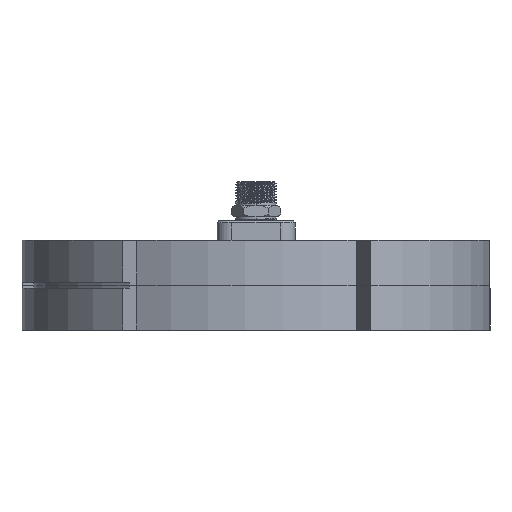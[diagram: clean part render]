
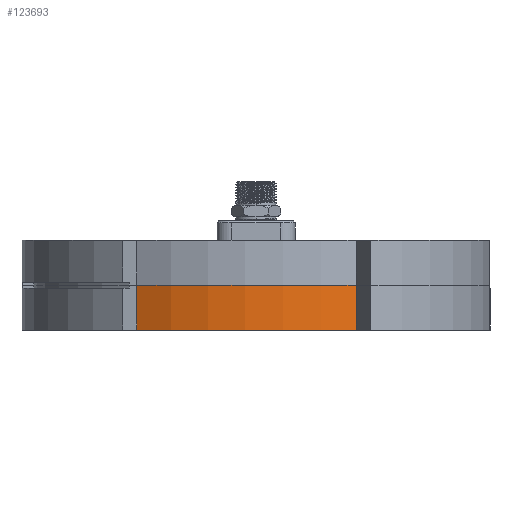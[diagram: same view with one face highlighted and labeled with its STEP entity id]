
A CAD part, front view. The second image highlights one B-rep face of the part: STEP entity #123693.
In plain terms, the highlighted cylindrical face has radius 120 mm (diameter 240 mm), a partial arc.
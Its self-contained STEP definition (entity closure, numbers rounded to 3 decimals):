
#1209 = CYLINDRICAL_SURFACE ( 'NONE', #116583, 120. ) ;
#4501 = VERTEX_POINT ( 'NONE', #152141 ) ;
#15092 = EDGE_CURVE ( 'NONE', #4501, #45956, #135315, .T. ) ;
#15925 = CIRCLE ( 'NONE', #16664, 120. ) ;
#16664 = AXIS2_PLACEMENT_3D ( 'NONE', #101354, #27440, #113734 ) ;
#16843 = VECTOR ( 'NONE', #71475, 1000. ) ;
#27104 = DIRECTION ( 'NONE',  ( 0., 0., 1. ) ) ;
#27440 = DIRECTION ( 'NONE',  ( 0., 0., 1. ) ) ;
#33798 = DIRECTION ( 'NONE',  ( 0., 0., 1. ) ) ;
#36184 = CARTESIAN_POINT ( 'NONE',  ( 60.564, -117.084, 12.345 ) ) ;
#45356 = FACE_OUTER_BOUND ( 'NONE', #97537, .T. ) ;
#45956 = VERTEX_POINT ( 'NONE', #36184 ) ;
#49414 = VERTEX_POINT ( 'NONE', #86831 ) ;
#53698 = EDGE_CURVE ( 'NONE', #45956, #62137, #140593, .T. ) ;
#56229 = ORIENTED_EDGE ( 'NONE', *, *, #122751, .F. ) ;
#58523 = CARTESIAN_POINT ( 'NONE',  ( 9.205, -8.63, -10.655 ) ) ;
#59056 = CARTESIAN_POINT ( 'NONE',  ( -51.881, -111.918, -10.655 ) ) ;
#60346 = EDGE_CURVE ( 'NONE', #49414, #62137, #15925, .T. ) ;
#62137 = VERTEX_POINT ( 'NONE', #106497 ) ;
#71475 = DIRECTION ( 'NONE',  ( 0., 0., 1. ) ) ;
#75568 = ORIENTED_EDGE ( 'NONE', *, *, #60346, .T. ) ;
#79458 = ORIENTED_EDGE ( 'NONE', *, *, #53698, .F. ) ;
#85489 = DIRECTION ( 'NONE',  ( 0., 0., -1. ) ) ;
#86831 = CARTESIAN_POINT ( 'NONE',  ( -51.881, -111.918, -10.655 ) ) ;
#96676 = ORIENTED_EDGE ( 'NONE', *, *, #15092, .F. ) ;
#97537 = EDGE_LOOP ( 'NONE', ( #56229, #75568, #79458, #96676 ) ) ;
#101003 = CARTESIAN_POINT ( 'NONE',  ( 9.205, -8.63, 12.345 ) ) ;
#101354 = CARTESIAN_POINT ( 'NONE',  ( 9.205, -8.63, -10.655 ) ) ;
#106497 = CARTESIAN_POINT ( 'NONE',  ( 60.564, -117.084, -10.655 ) ) ;
#107854 = VECTOR ( 'NONE', #85489, 1000. ) ;
#108235 = DIRECTION ( 'NONE',  ( 1., 0., 0. ) ) ;
#113398 = DIRECTION ( 'NONE',  ( 1., 0., 0. ) ) ;
#113734 = DIRECTION ( 'NONE',  ( 1., 0., 0. ) ) ;
#116583 = AXIS2_PLACEMENT_3D ( 'NONE', #58523, #33798, #108235 ) ;
#122751 = EDGE_CURVE ( 'NONE', #49414, #4501, #140290, .T. ) ;
#123693 = ADVANCED_FACE ( 'NONE', ( #45356 ), #1209, .T. ) ;
#134582 = CARTESIAN_POINT ( 'NONE',  ( 60.564, -117.084, -10.655 ) ) ;
#135315 = CIRCLE ( 'NONE', #158593, 120. ) ;
#140290 = LINE ( 'NONE', #59056, #16843 ) ;
#140593 = LINE ( 'NONE', #134582, #107854 ) ;
#152141 = CARTESIAN_POINT ( 'NONE',  ( -51.881, -111.918, 12.345 ) ) ;
#158593 = AXIS2_PLACEMENT_3D ( 'NONE', #101003, #27104, #113398 ) ;
